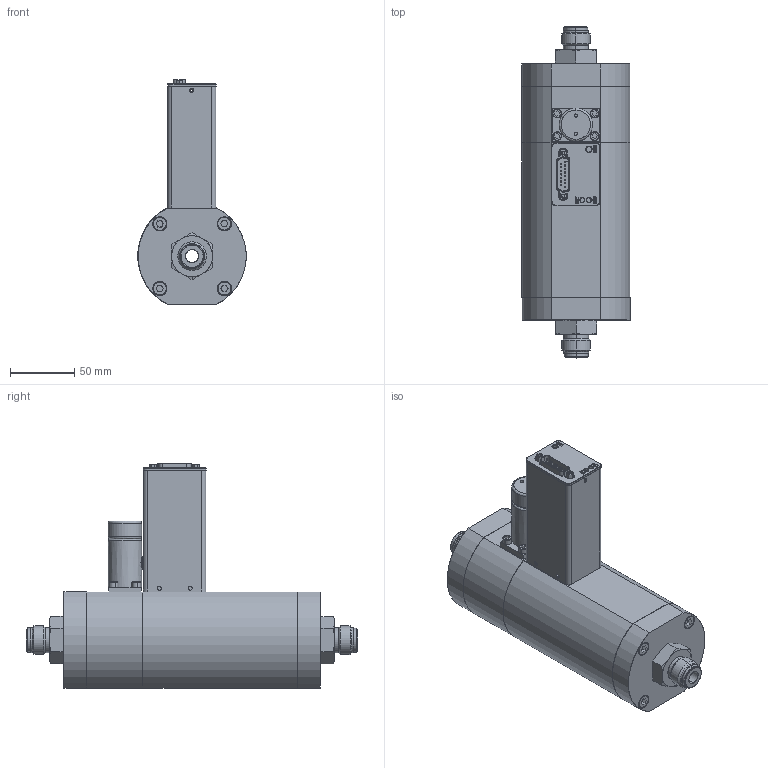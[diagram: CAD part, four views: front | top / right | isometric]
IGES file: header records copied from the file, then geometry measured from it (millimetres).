
Start section: SolidWorks IGES file using analytic representation for surfaces
Global section: file name: G:\Engineering\CAD MODELS FOR SALES\CAD MODEL STORAGE\SLA\SLA5853\IGES\SLA5853-S-2M-2-C-REVB.IGS; native system: SolidWorks 2017; preprocessor: SolidWorks 2017; author: CFehr; date: 171003.103830; units: inch
Bounding box: 84.21 x 257.73 x 174.47 mm (x, y, z)
Surface area: 125046.6 mm2 (no closed solid volume)
Topology: 0 solids, 0 shells, 581 faces, 8145 edges, 8145 vertices
Faces by surface type: bspline 299, revolution 282
